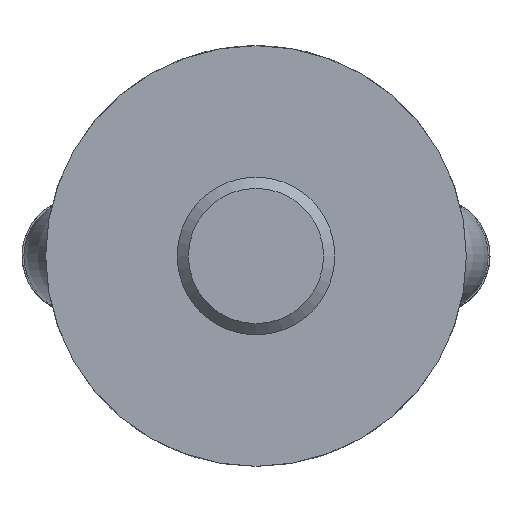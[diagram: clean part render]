
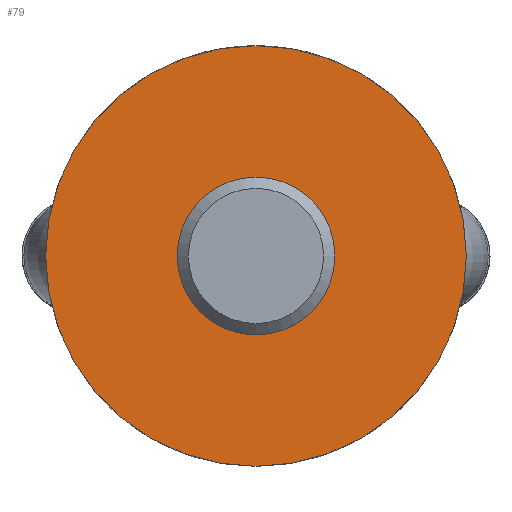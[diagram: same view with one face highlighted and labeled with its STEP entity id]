
A CAD part, front view. The second image highlights one B-rep face of the part: STEP entity #79.
In plain terms, the highlighted planar face has unit normal (0, -1, 0).
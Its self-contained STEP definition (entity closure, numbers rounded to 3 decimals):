
#79 = ADVANCED_FACE( '', ( #115, #116 ), #117, .F. );
#115 = FACE_BOUND( '', #186, .T. );
#116 = FACE_OUTER_BOUND( '', #187, .T. );
#117 = PLANE( '', #188 );
#186 = EDGE_LOOP( '', ( #276 ) );
#187 = EDGE_LOOP( '', ( #277 ) );
#188 = AXIS2_PLACEMENT_3D( '', #278, #279, #280 );
#276 = ORIENTED_EDGE( '', *, *, #464, .T. );
#277 = ORIENTED_EDGE( '', *, *, #465, .T. );
#278 = CARTESIAN_POINT( '', ( 40., 0., 0. ) );
#279 = DIRECTION( '', ( 0., 1., 0. ) );
#280 = DIRECTION( '', ( 0., 0., 1. ) );
#464 = EDGE_CURVE( '', #539, #539, #540, .T. );
#465 = EDGE_CURVE( '', #541, #541, #542, .T. );
#539 = VERTEX_POINT( '', #863 );
#540 = CIRCLE( '', #864, 15. );
#541 = VERTEX_POINT( '', #865 );
#542 = CIRCLE( '', #866, 40. );
#863 = CARTESIAN_POINT( '', ( 0., 0., 15. ) );
#864 = AXIS2_PLACEMENT_3D( '', #1184, #1185, #1186 );
#865 = CARTESIAN_POINT( '', ( 0., 0., -40. ) );
#866 = AXIS2_PLACEMENT_3D( '', #1187, #1188, #1189 );
#1184 = CARTESIAN_POINT( '', ( 0., 0., 0. ) );
#1185 = DIRECTION( '', ( 0., 1., 0. ) );
#1186 = DIRECTION( '', ( 0., 0., 1. ) );
#1187 = CARTESIAN_POINT( '', ( 0., 0., 0. ) );
#1188 = DIRECTION( '', ( 0., -1., 0. ) );
#1189 = DIRECTION( '', ( 0., 0., -1. ) );
